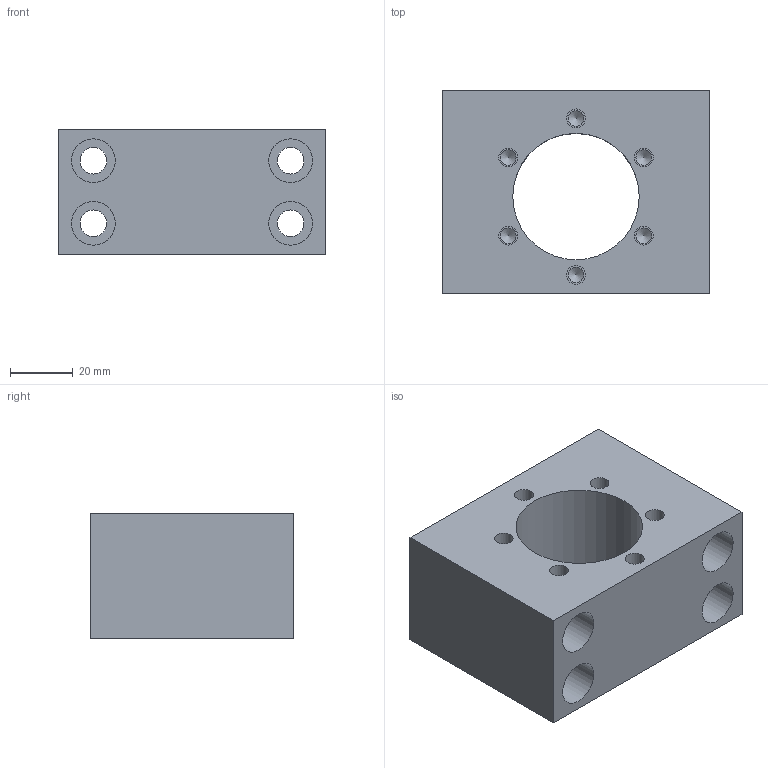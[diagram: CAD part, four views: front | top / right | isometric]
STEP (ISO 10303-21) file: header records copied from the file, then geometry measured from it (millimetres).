
FILE_DESCRIPTION(/* description */ (''),/* implementation_level */ '2;1');
FILE_NAME(/* name */ 'MGS25-M6.stp',/* time_stamp */ '2017-01-03T10:16:40+08:00',/* author */ (''),/* organization */ (''),/* preprocessor_version */ 'ST-DEVELOPER v15',/* originating_system */ 'SIEMENS PLM Software NX 8.5',/* authorisation */ '');
FILE_SCHEMA (('AUTOMOTIVE_DESIGN { 1 0 10303 214 3 1 1 1 }'));
Length unit declared in the file: millimetre
Products named in the file (1): Admi176C94C16gvn
Bounding box: 85 x 65 x 40 mm (x, y, z)
Volume: 147202.5 mm3; surface area: 34326.8 mm2
Topology: 1 solids, 1 shells, 51 faces, 113 edges, 78 vertices
Faces by surface type: cylinder 25, plane 20, cone 6
Full cylindrical faces by diameter (mm): 5 x6, 6 x6, 8.5 x4, 10 x4, 14 x4, 40.4 x1
Entity records: 1182 total; most frequent: DIRECTION 216, CARTESIAN_POINT 178, ORIENTED_EDGE 124, FACE_BOUND 110, EDGE_LOOP 106, AXIS2_PLACEMENT_3D 102, VERTEX_POINT 64, EDGE_CURVE 62
